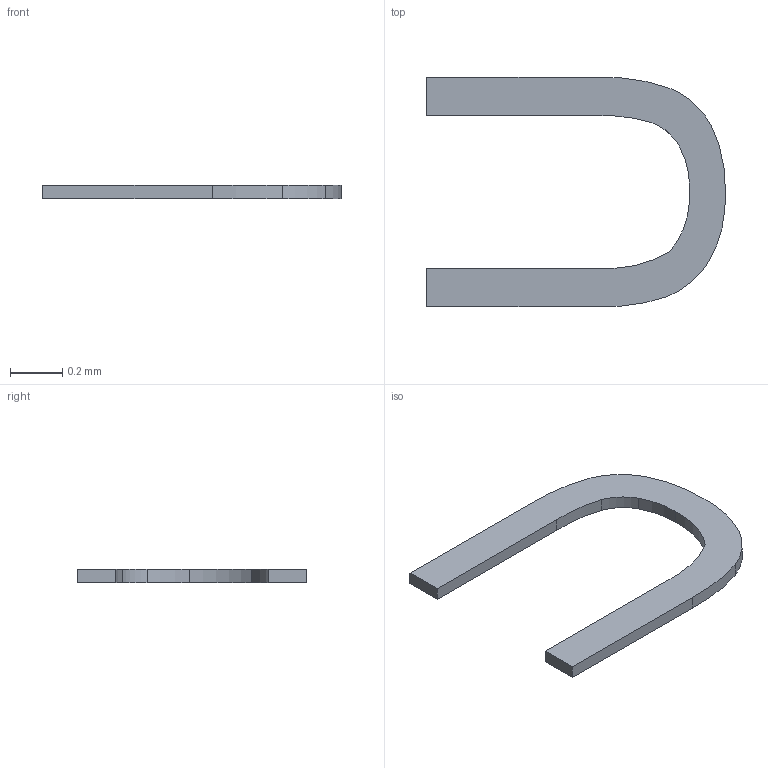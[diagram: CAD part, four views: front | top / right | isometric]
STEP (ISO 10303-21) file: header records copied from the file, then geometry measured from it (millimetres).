
FILE_DESCRIPTION(/* description */ ('STEP AP242 Edition 2','CAx-IF Rec.Pracs.---Representation and Presentation of Product Manufacturing Information (PMI)---4.0---2014-10-13','CAx-IF Rec.Pracs.---3D Tessellated Geometry---0.4---2014-09-14','2;1','CAx-IF Rec.Pracs.---User Defined Attributes---1.5---2016-08-15'),/* implementation_level */ '2;1');
FILE_NAME(/* name */ 'Drone Layout - Surface 296',/* time_stamp */ '2026-10-04T22:22:55Z',/* author */ (''),/* organization */ (''),/* preprocessor_version */ 'ST-DEVELOPER v20',/* originating_system */ 'ONSHAPE BY PTC INC, 1.221',/* authorisation */ ' ');
FILE_SCHEMA (('AP242_MANAGED_MODEL_BASED_3D_ENGINEERING_MIM_LF { 1 0 10303 442 3 1 4 }'));
Length unit declared in the file: metre
Products named in the file (1): Text_ITGMPU
Bounding box: 1.14 x 0.88 x 0.05 mm (x, y, z)
Volume: 0 mm3; surface area: 1 mm2
Topology: 1 solids, 1 shells, 19 faces, 51 edges, 34 vertices
Faces by surface type: cylinder 11, plane 8
Entity records: 632 total; most frequent: CARTESIAN_POINT 141, ORIENTED_EDGE 102, DIRECTION 101, EDGE_CURVE 51, AXIS2_PLACEMENT_3D 42, VERTEX_POINT 34, CIRCLE 22, EDGE_LOOP 19
